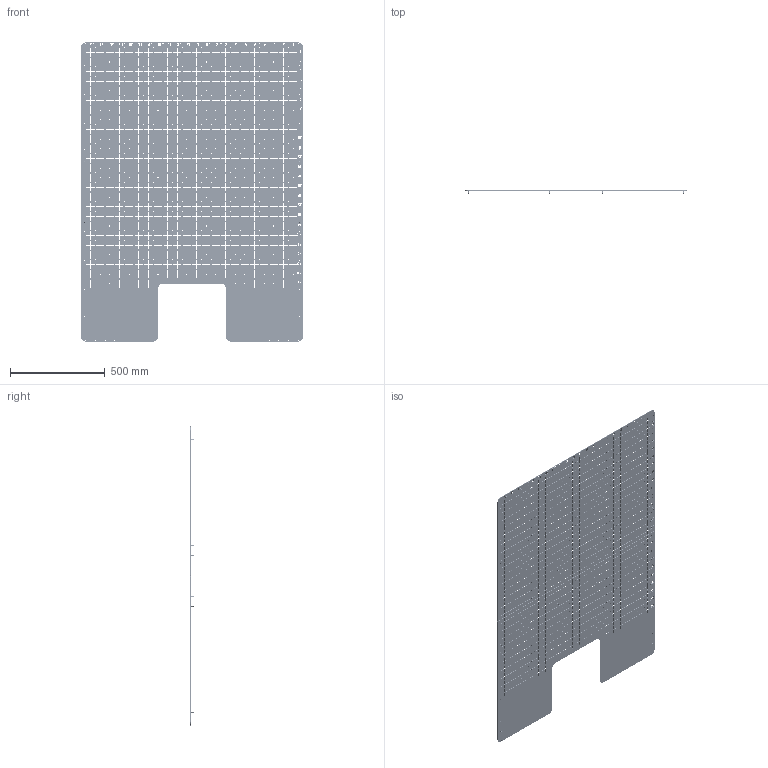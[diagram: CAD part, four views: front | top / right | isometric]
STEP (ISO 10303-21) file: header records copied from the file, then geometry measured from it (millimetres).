
FILE_DESCRIPTION (( 'STEP AP203' ), '1' );
FILE_NAME ('5013110_REV-A - VERSACART 1700 STANDARD VISUAL INFEED.STEP', '2024-12-18T18:49:57', ( '' ), ( '' ), 'SwSTEP 2.0', 'SolidWorks 2019', '' );
FILE_SCHEMA (( 'CONFIG_CONTROL_DESIGN' ));
Length unit declared in the file: inch
Products named in the file (6): 5012087_Default Configuration; 5013110_REV-A - VERSACART 1700 STANDARD VISUAL INFEED; 5012092_OPP. ROBOT; 5013109_Default Configuration; 5013110_Default Configuration; M4x0.7 FHCS_FHCS M4x0.7x16
Assembly tree (15 placements, depth 3):
  5012087_Default Configuration
  5013110_REV-A - VERSACART 1700 STANDARD VISUAL INFEED
    5013110_Default Configuration
      5012092_OPP. ROBOT
      5013109_Default Configuration
      M4x0.7 FHCS_FHCS M4x0.7x16  x12
Bounding box: 1168.4 x 16.57 x 1574.8 mm (x, y, z)
Volume: 4867270.5 mm3; surface area: 3535574.8 mm2
Topology: 14 solids, 14 shells, 13355 faces, 39849 edges, 26522 vertices
Faces by surface type: plane 7719, cylinder 5540, cone 96
Entity records: 450540 total; most frequent: CARTESIAN_POINT 78797, ORIENTED_EDGE 78770, DIRECTION 76735, EDGE_CURVE 39385, VECTOR 28365, LINE 28365, VERTEX_POINT 26247, AXIS2_PLACEMENT_3D 24185
